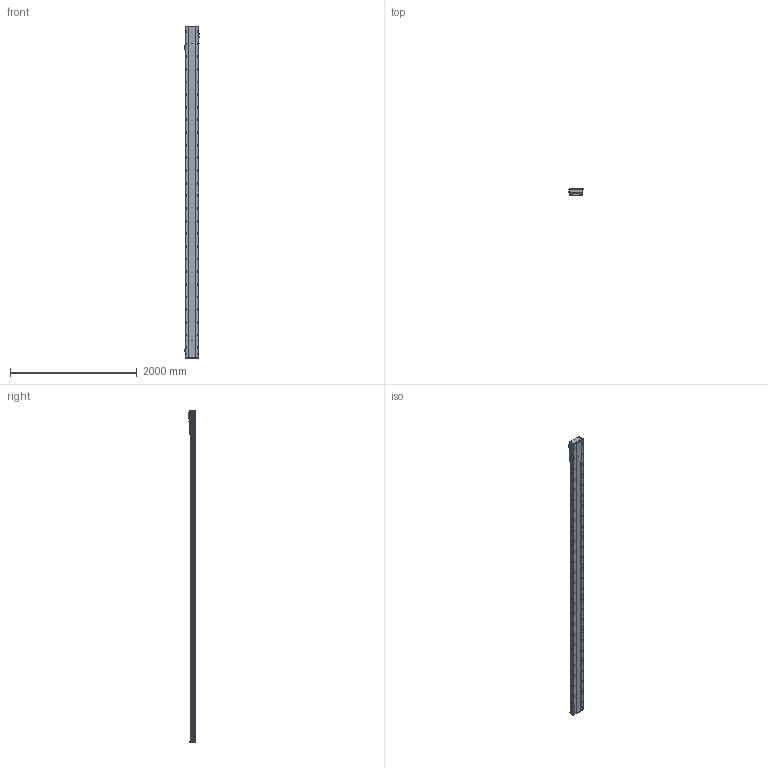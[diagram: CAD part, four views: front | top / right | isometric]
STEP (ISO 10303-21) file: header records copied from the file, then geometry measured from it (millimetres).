
FILE_DESCRIPTION (( 'STEP AP203' ), '1' );
FILE_NAME ('BEH22-A-M2-4800-L1-¦Õ22-PCD100-M6-C3.STEP', '2022-06-21T06:37:53', ( 'CXY' ), ( 'BT' ), 'SwSTEP 2.0', 'SolidWorks 2016', '' );
FILE_SCHEMA (( 'CONFIG_CONTROL_DESIGN' ));
Length unit declared in the file: millimetre
Products named in the file (12): BEH22-04-01_L; BEH22-04-F; FS-01-10（10毫米）; BEH22-07-PCD100-80-M6; PM-T65; FS-25-6.66-M2-H22K6; 萇儂階踡輸; BEH22-A-M2-4800-L1-耳22-PCD100-M6-C3; BEH22-B-01-XX-2; _G-M6; FS-02-BTH22; BTH22-07-DZ
Assembly tree (18 placements, depth 3):
  BEH22-A-M2-4800-L1-耳22-PCD100-M6-C3
    BEH22-B-01-XX-2
    BTH22-07-DZ  x2
    PM-T65  x2
    BEH22-04-01_L
      BEH22-04-F
      萇儂階踡輸
      _G-M6  x3
      FS-02-BTH22
      FS-01-10（10毫米）  x4
      BEH22-07-PCD100-80-M6
      FS-25-6.66-M2-H22K6
Bounding box: 247.7 x 111 x 5248 mm (x, y, z)
Volume: 53527992.5 mm3; surface area: 5153568.8 mm2
Topology: 21 solids, 21 shells, 2922 faces, 8818 edges, 5758 vertices
Faces by surface type: cylinder 1608, plane 1022, cone 233, bspline 37, torus 22
Entity records: 492418 total; most frequent: CARTESIAN_POINT 424039, ORIENTED_EDGE 15456, DIRECTION 12560, EDGE_CURVE 7728, VERTEX_POINT 5118, AXIS2_PLACEMENT_3D 4566, LINE 3428, VECTOR 3428
